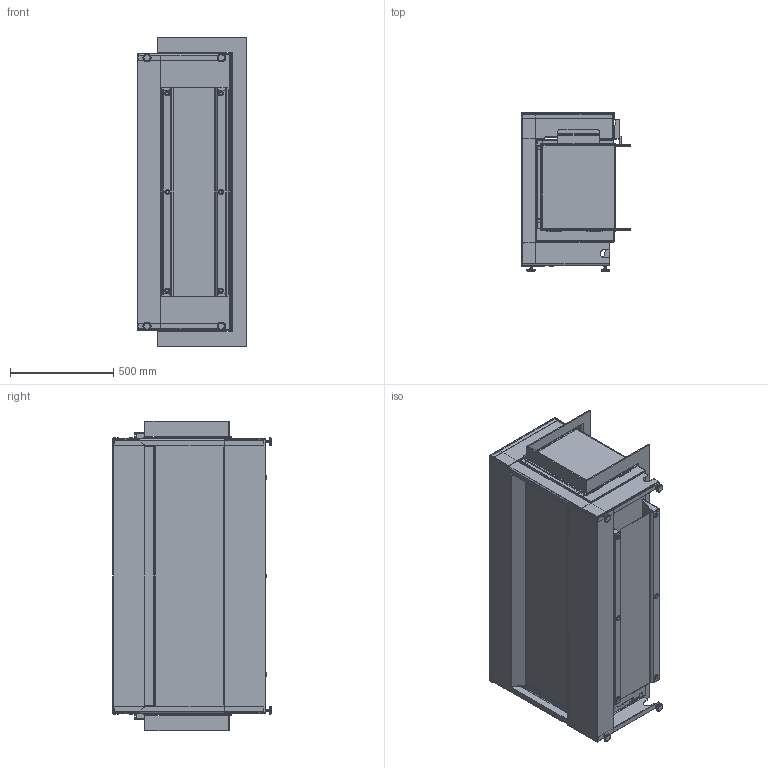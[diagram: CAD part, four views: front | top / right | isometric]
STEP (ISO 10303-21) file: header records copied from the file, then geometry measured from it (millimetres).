
FILE_DESCRIPTION (( 'STEP AP214' ), '1' );
FILE_NAME ('Faber e-MatriX 1300x400 III_defeature.STEP', '2022-05-31T12:24:51', ( '' ), ( '' ), 'SwSTEP 2.0', 'SolidWorks 2021', '' );
FILE_SCHEMA (( 'AUTOMOTIVE_DESIGN' ));
Length unit declared in the file: millimetre
Products named in the file (1): Faber e-MatriX 1300x400 III_defeature
Bounding box: 533.5 x 768.7 x 1501 mm (x, y, z)
Volume: 14129281.5 mm3; surface area: 13136617.8 mm2
Topology: 29 solids, 29 shells, 1966 faces, 4858 edges, 2900 vertices
Faces by surface type: plane 1040, cylinder 732, bspline 118, cone 44, torus 32
Entity records: 78522 total; most frequent: CARTESIAN_POINT 32853, ORIENTED_EDGE 9716, DIRECTION 9102, EDGE_CURVE 4858, VECTOR 3128, LINE 3128, AXIS2_PLACEMENT_3D 2987, VERTEX_POINT 2900
